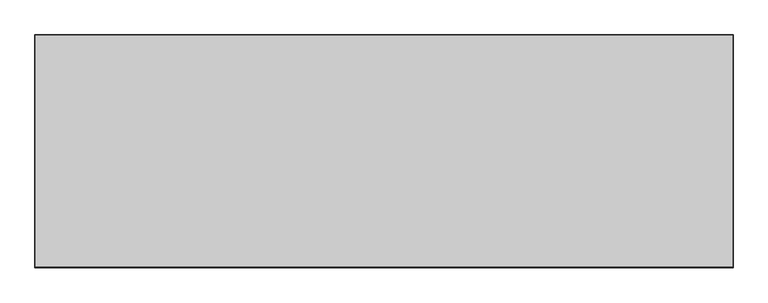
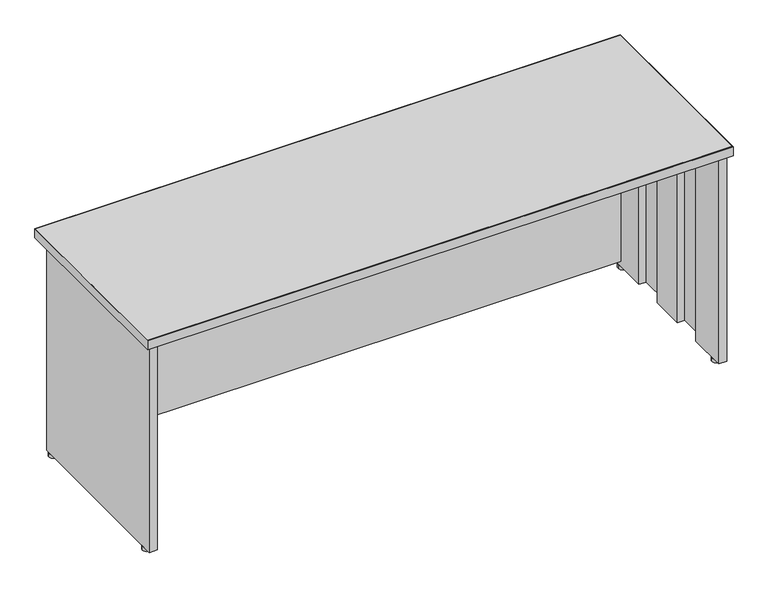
"""IFC4 building model written with IfcOpenShell, lengths in millimetres: furniture geometry, Steelcase - Kick Freestanding - Desk Shell - Full Height Modesty Panel : 24D x 72W."""

import ifcopenshell
import ifcopenshell.guid

model = None  # the IFC model being written
_history = None  # IfcOwnerHistory: only IFC2X3 demands one
_inside = {}  # id of a spatial element -> (the spatial element, [elements in it])
_under = {}  # id of a project, library or spatial element -> (it, [spatial elements below it])
_declared = {}  # id of a project -> (the project, [libraries it declares])
_typed = {}  # id of a type object -> (the type object, [elements of that type])
_made_of = {}  # id of a material, layer set ... -> (it, [elements and type objects made of it])


def new_model(schema):
    """Start an empty IFC model of exactly this schema.

    Asked for "IFC4X3", IfcOpenShell would pick the latest addendum, in which some entities
    have other attributes; the version numbers below select the first issue.
    IFC2X3 requires an IfcOwnerHistory on every rooted entity: one is made here for all.
    """
    global model, _history
    if schema == "IFC4X3":
        model = ifcopenshell.file(schema_version=(4, 3, 0, 0))
    else:
        model = ifcopenshell.file(schema=schema)
    _inside.clear()
    _under.clear()
    _declared.clear()
    _typed.clear()
    _made_of.clear()
    _history = None
    if model.schema == "IFC2X3":
        org = make("IfcOrganization", Name="unknown")
        user = make(
            "IfcPersonAndOrganization",
            ThePerson=make("IfcPerson", FamilyName="unknown"),
            TheOrganization=org,
        )
        app = make(
            "IfcApplication",
            ApplicationDeveloper=org,
            Version="unknown",
            ApplicationFullName="unknown",
            ApplicationIdentifier="unknown",
        )
        _history = make(
            "IfcOwnerHistory",
            OwningUser=user,
            OwningApplication=app,
            ChangeAction="ADDED",
            CreationDate=0,
        )
    return model


def make(cls, **values):
    """One entity of the class cls with the attributes given. An attribute that is None is left unset."""
    return model.create_entity(
        cls, **{name: value for name, value in values.items() if value is not None}
    )


def rooted(cls, **values):
    """An entity with a GlobalId (a new one), such as an element, a storey or a relation."""
    return make(cls, GlobalId=ifcopenshell.guid.new(), OwnerHistory=_history, **values)


def si_unit(unit_type, name, prefix=None):
    """IfcSIUnit, for example si_unit("LENGTHUNIT", "METRE", prefix="MILLI")."""
    return make("IfcSIUnit", UnitType=unit_type, Prefix=prefix, Name=name)


def assignment(units):
    """IfcUnitAssignment: the units of a project."""
    return None if units is None else make("IfcUnitAssignment", Units=units)


def point(xyz):
    """IfcCartesianPoint."""
    return None if xyz is None else make("IfcCartesianPoint", Coordinates=xyz)


def direction(xyz):
    """IfcDirection."""
    return None if xyz is None else make("IfcDirection", DirectionRatios=xyz)


def frame(location, z_axis=None, x_axis=None):
    """IfcAxis2Placement3D, a coordinate frame: its origin and axes. An axis left out is left unset."""
    return make(
        "IfcAxis2Placement3D",
        Location=point(location),
        Axis=direction(z_axis),
        RefDirection=direction(x_axis),
    )


def frame_2d(location, x_axis=None):
    """IfcAxis2Placement2D, a coordinate frame in the plane: its origin and x axis."""
    return make(
        "IfcAxis2Placement2D", Location=point(location), RefDirection=direction(x_axis)
    )


def origin():
    """The frame at (0, 0, 0) with its axes left unset."""
    return frame((0.0, 0.0, 0.0))


def origin_with_axes():
    """The frame at (0, 0, 0) with the z axis (0, 0, 1) and the x axis (1, 0, 0) written out."""
    return frame((0.0, 0.0, 0.0), z_axis=(0.0, 0.0, 1.0), x_axis=(1.0, 0.0, 0.0))


def place(relative_to, where):
    """IfcLocalPlacement: puts the frame where relative to a parent placement (None: the world)."""
    return make(
        "IfcLocalPlacement", PlacementRelTo=relative_to, RelativePlacement=where
    )


def context(
    kind, dimensions, precision=None, world=None, true_north=None, identifier=None
):
    """IfcGeometricRepresentationContext, for example the 3D "Model" context."""
    return make(
        "IfcGeometricRepresentationContext",
        ContextIdentifier=identifier,
        ContextType=kind,
        CoordinateSpaceDimension=dimensions,
        Precision=precision,
        WorldCoordinateSystem=world,
        TrueNorth=true_north,
    )


def project(units=None, contexts=None):
    """IfcProject with its units and contexts."""
    return rooted(
        "IfcProject",
        Name="project",
        RepresentationContexts=contexts,
        UnitsInContext=assignment(units),
    )


def spatial(cls, under=None, at=None, **own):
    """A site, building, storey or space (cls), placed at a placement, below another one or the project."""
    s = rooted(cls, ObjectPlacement=at, **own)
    if under is not None:
        _under.setdefault(under.id(), (under, []))[1].append(s)
    return s


def polyline(points):
    """IfcPolyline through the points."""
    return make("IfcPolyline", Points=[point(p) for p in points])


def circle_curve(where, radius):
    """IfcCircle in the frame where."""
    return make("IfcCircle", Position=where, Radius=radius)


def trimmed(basis, trim1, trim2, sense, master):
    """IfcTrimmedCurve: the piece of a basis curve between two trims."""
    return make(
        "IfcTrimmedCurve",
        BasisCurve=basis,
        Trim1=trim1,
        Trim2=trim2,
        SenseAgreement=sense,
        MasterRepresentation=master,
    )


def segment(curve, same_sense, transition):
    """IfcCompositeCurveSegment."""
    return make(
        "IfcCompositeCurveSegment",
        Transition=transition,
        SameSense=same_sense,
        ParentCurve=curve,
    )


def composite_curve(segments, self_intersect=None):
    """IfcCompositeCurve: segments joined end to end."""
    return make("IfcCompositeCurve", Segments=segments, SelfIntersect=self_intersect)


def outline(outer, holes=None, kind="AREA"):
    """IfcArbitraryClosedProfileDef: a profile drawn as a closed curve; with holes, ...WithVoids."""
    if holes is None:
        return make("IfcArbitraryClosedProfileDef", ProfileType=kind, OuterCurve=outer)
    return make(
        "IfcArbitraryProfileDefWithVoids",
        ProfileType=kind,
        OuterCurve=outer,
        InnerCurves=holes,
    )


def extrude(swept, where, along, depth):
    """IfcExtrudedAreaSolid: the profile swept, set in the frame where, extruded along a direction by depth."""
    return make(
        "IfcExtrudedAreaSolid",
        SweptArea=swept,
        Position=where,
        ExtrudedDirection=direction(along),
        Depth=depth,
    )


def shape(context_of_items, identifier, shape_type, items):
    """IfcShapeRepresentation: the items that make up one representation, for example the "Body"."""
    return make(
        "IfcShapeRepresentation",
        ContextOfItems=context_of_items,
        RepresentationIdentifier=identifier,
        RepresentationType=shape_type,
        Items=items,
    )


def source(mapping_origin, context_of_items, identifier, shape_type, items):
    """IfcRepresentationMap: a shape defined once, which mapped items show again and again."""
    return make(
        "IfcRepresentationMap",
        MappingOrigin=mapping_origin,
        MappedRepresentation=shape(context_of_items, identifier, shape_type, items),
    )


def transform(
    local_origin,
    x_axis=None,
    y_axis=None,
    z_axis=None,
    scale=None,
    scale2=None,
    scale3=None,
    uniform=True,
):
    """IfcCartesianTransformationOperator3D, or its non-uniform kind. x_axis, y_axis, z_axis: its Axis1, 2, 3."""
    if uniform:
        return make(
            "IfcCartesianTransformationOperator3D",
            Axis1=direction(x_axis),
            Axis2=direction(y_axis),
            LocalOrigin=point(local_origin),
            Scale=scale,
            Axis3=direction(z_axis),
        )
    return make(
        "IfcCartesianTransformationOperator3DnonUniform",
        Axis1=direction(x_axis),
        Axis2=direction(y_axis),
        LocalOrigin=point(local_origin),
        Scale=scale,
        Axis3=direction(z_axis),
        Scale2=scale2,
        Scale3=scale3,
    )


def mapped(mapping_source, mapping_target):
    """IfcMappedItem: shows the shape of a source again, moved by a transform."""
    return make(
        "IfcMappedItem", MappingSource=mapping_source, MappingTarget=mapping_target
    )


def made_of(thing, what):
    """Note that an element or type object is made of a material, layer set ...; save() writes the relation."""
    if what is not None:
        _made_of.setdefault(what.id(), (what, []))[1].append(thing)
    return thing


def element(
    cls,
    number,
    at=None,
    inside=None,
    cuts=None,
    type_object=None,
    material=None,
    context=None,
    identifier="Body",
    shape_type=None,
    held_by="IfcProductDefinitionShape",
    body=None,
    shapes=None,
    **own,
):
    """One element of the class cls, such as IfcWall. Its Tag is "e" and its number.

    at: its placement. inside: the storey or other place that contains it. cuts: it is an
    opening in that element (IfcRelVoidsElement). A single representation is given by context,
    identifier, shape_type and body (its items); several are given by shapes. held_by: the class
    of the entity that holds the representations. save() writes the other relations.
    """
    e = rooted(cls, Tag="e%d" % number, ObjectPlacement=at, **own)
    if body is not None:
        shapes = [shape(context, identifier, shape_type, body)]
    if shapes is not None:
        e.Representation = make(held_by, Representations=shapes)
    if inside is not None:
        _inside.setdefault(inside.id(), (inside, []))[1].append(e)
    if cuts is not None:
        rooted(
            "IfcRelVoidsElement", RelatingBuildingElement=cuts, RelatedOpeningElement=e
        )
    if type_object is not None:
        _typed.setdefault(type_object.id(), (type_object, []))[1].append(e)
    return made_of(e, material)


def aggregate(whole, parts):
    """IfcRelAggregates: a whole, such as a stair, and the parts it consists of."""
    return rooted("IfcRelAggregates", RelatingObject=whole, RelatedObjects=parts)


def save(model, path):
    """Write the relations noted so far, then the file.

    IfcRelAggregates (storeys below a building ...), IfcRelContainedInSpatialStructure (elements
    in a storey), IfcRelDefinesByType, IfcRelAssociatesMaterial and IfcRelDeclares: one each for
    every whole, place, type object, material and project.
    """
    for whole, parts in _under.values():
        aggregate(whole, parts)
    for where, things in _inside.values():
        rooted(
            "IfcRelContainedInSpatialStructure",
            RelatedElements=things,
            RelatingStructure=where,
        )
    for kind, things in _typed.values():
        rooted("IfcRelDefinesByType", RelatedObjects=things, RelatingType=kind)
    for what, things in _made_of.values():
        rooted("IfcRelAssociatesMaterial", RelatedObjects=things, RelatingMaterial=what)
    for by, libraries in _declared.values():
        rooted("IfcRelDeclares", RelatingContext=by, RelatedDefinitions=libraries)
    model.write(path)


def furniture_637f952f(model_context):
    return source(origin(), model_context, "Body", "SweptSolid", [
        extrude(outline(polyline([(677.0450425, -999.9647597), (677.0450425, -974.5647604), (2431.4738425, -974.5647604), (2431.4738425, -999.9647597), (677.0450425, -999.9647597)])), frame((0.0, 0.0, 31.242), z_axis=(0.0, 0.0, 1.0), x_axis=(1.0, 0.0, 0.0)), (0.0, 0.0, 1.0), 663.702),
        extrude(outline(composite_curve([segment(trimmed(circle_curve(frame_2d((665.1357759, -986.9367877)), 13.97), [point((651.1657759, -986.9367877))], [point((679.1057759, -986.9367877))], False, "CARTESIAN"), True, "CONTINUOUS"), segment(trimmed(circle_curve(frame_2d((665.1357759, -986.9367877)), 13.97), [point((679.1057759, -986.9367877))], [point((651.1657759, -986.9367877))], False, "CARTESIAN"), True, "CONTINUOUS")], self_intersect=False)), origin_with_axes(), (0.0, 0.0, 1.0), 12.446),
        extrude(outline(composite_curve([segment(trimmed(circle_curve(frame_2d((665.1357759, -1493.6441481)), 13.97), [point((651.1657759, -1493.6441481))], [point((679.1057759, -1493.6441481))], False, "CARTESIAN"), True, "CONTINUOUS"), segment(trimmed(circle_curve(frame_2d((665.1357759, -1493.6441481)), 13.97), [point((679.1057759, -1493.6441481))], [point((651.1657759, -1493.6441481))], False, "CARTESIAN"), True, "CONTINUOUS")], self_intersect=False)), origin_with_axes(), (0.0, 0.0, 1.0), 12.446),
        extrude(outline(polyline([(2431.4738425, -1096.0529604), (2431.4738425, -972.7867604), (2455.9594421, -972.7867604), (2455.9594421, -1528.538741), (2431.4738421, -1528.538741), (2431.4738421, -1404.2311348), (2453.9020425, -1404.2311348), (2453.9020425, -1304.5107682), (2431.4738421, -1304.5107682), (2431.4738421, -1195.7733647), (2453.9020425, -1195.7733647), (2453.9020425, -1096.0529604), (2431.4738425, -1096.0529604)])), frame((0.0, 0.0, 12.446), z_axis=(0.0, 0.0, 1.0), x_axis=(1.0, 0.0, 0.0)), (0.0, 0.0, 1.0), 682.498),
        extrude(outline(polyline([(677.0450425, -1096.0529604), (654.6168425, -1096.0529604), (654.6168425, -1195.7733647), (677.0450429, -1195.7733647), (677.0450429, -1304.5107682), (654.6168425, -1304.5107682), (654.6168425, -1404.2311348), (677.0450429, -1404.2311348), (677.0450429, -1528.538741), (652.5594429, -1528.538741), (652.5594429, -972.7867604), (677.0450425, -972.7867604), (677.0450425, -1096.0529604)])), frame((0.0, 0.0, 12.446), z_axis=(0.0, 0.0, 1.0), x_axis=(1.0, 0.0, 0.0)), (0.0, 0.0, 1.0), 682.498),
        extrude(outline(polyline([(2467.6688425, -932.6293604), (2467.6688425, -1538.2669215), (640.8500425, -1538.2669215), (640.8500425, -932.6293604), (2467.6688425, -932.6293604)])), frame((0.0, 0.0, 694.944), z_axis=(0.0, 0.0, 1.0), x_axis=(1.0, 0.0, 0.0)), (0.0, 0.0, 1.0), 28.956),
        extrude(outline(polyline([(2468.6594425, -931.6387604), (2468.6594425, -1541.2387604), (639.8594425, -1541.2387604), (639.8594425, -931.6387604), (2468.6594425, -931.6387604)]), holes=[polyline([(2467.6688425, -932.6293604), (640.8500425, -932.6293604), (640.8500425, -1538.2669215), (2467.6688425, -1538.2669215), (2467.6688425, -932.6293604)])]), frame((0.0, 0.0, 694.944), z_axis=(0.0, 0.0, 1.0), x_axis=(1.0, 0.0, 0.0)), (0.0, 0.0, 1.0), 28.956),
        extrude(outline(composite_curve([segment(trimmed(circle_curve(frame_2d((2443.3831091, -1493.6441481)), 13.97), [point((2429.4131091, -1493.6441481))], [point((2457.3531091, -1493.6441481))], False, "CARTESIAN"), True, "CONTINUOUS"), segment(trimmed(circle_curve(frame_2d((2443.3831091, -1493.6441481)), 13.97), [point((2457.3531091, -1493.6441481))], [point((2429.4131091, -1493.6441481))], False, "CARTESIAN"), True, "CONTINUOUS")], self_intersect=False)), origin_with_axes(), (0.0, 0.0, 1.0), 12.446),
        extrude(outline(composite_curve([segment(trimmed(circle_curve(frame_2d((2443.3831091, -986.9367877)), 13.97), [point((2457.3531091, -986.9367877))], [point((2429.4131091, -986.9367877))], False, "CARTESIAN"), True, "CONTINUOUS"), segment(trimmed(circle_curve(frame_2d((2443.3831091, -986.9367877)), 13.97), [point((2429.4131091, -986.9367877))], [point((2457.3531091, -986.9367877))], False, "CARTESIAN"), True, "CONTINUOUS")], self_intersect=False)), origin_with_axes(), (0.0, 0.0, 1.0), 12.446),
    ])


if __name__ == "__main__":
    model = new_model("IFC4")
    model_context = context("Model", 3, world=origin())
    ifc_project = project(units=[si_unit("LENGTHUNIT", "METRE", prefix="MILLI")], contexts=[model_context])
    site = spatial("IfcSite", under=ifc_project)
    building = spatial("IfcBuilding", under=site)
    placement = place(None, origin())
    furniture_shape = furniture_637f952f(model_context)
    element("IfcFurniture", 1, ObjectType="Steelcase - Kick Freestanding - Desk Shell - Full Height Modesty Panel : 24D x 72W", at=placement, inside=building, context=model_context, shape_type="MappedRepresentation", body=[
        mapped(furniture_shape, transform((0.0, 0.0, 0.0), x_axis=(1.0, 0.0, 0.0), y_axis=(0.0, 1.0, 0.0), z_axis=(0.0, 0.0, 1.0))),
    ])
    save(model, "model.ifc")
